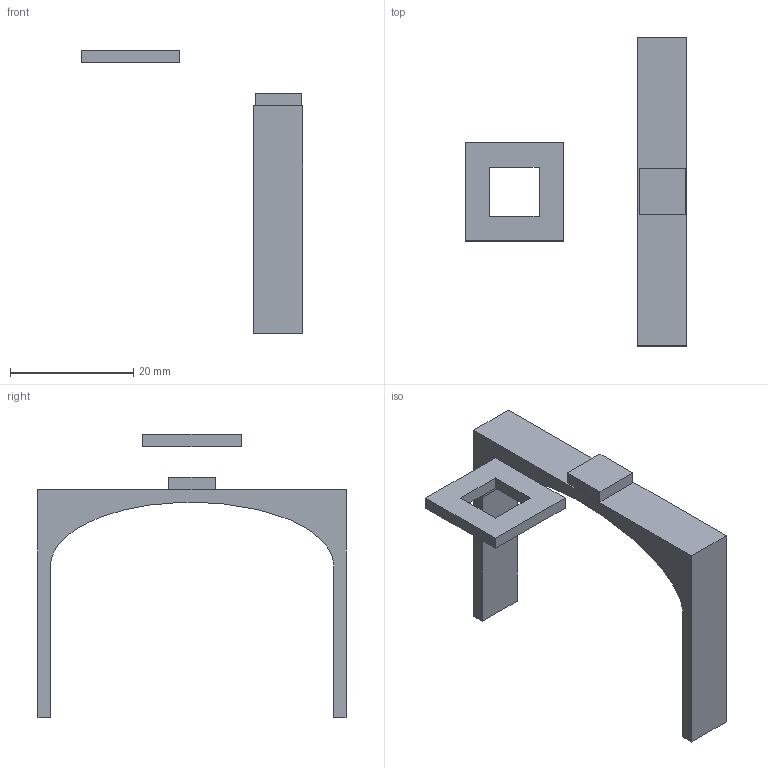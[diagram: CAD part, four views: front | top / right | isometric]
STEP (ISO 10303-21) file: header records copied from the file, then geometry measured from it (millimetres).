
FILE_DESCRIPTION(/* description */ (''),/* implementation_level */ '2;1');
FILE_NAME(/* name */ 'testpressfit',/* time_stamp */ '2025-04-15T11:17:41-04:00',/* author */ (''),/* organization */ (''),/* preprocessor_version */ 'ST-DEVELOPER v19.2',/* originating_system */ 'Rhino 8.18',/* authorisation */ '');
FILE_SCHEMA (('CONFIG_CONTROL_DESIGN'));
Length unit declared in the file: millimetre
Products named in the file (1): Document
Bounding box: 36 x 50 x 46 mm (x, y, z)
Volume: 3258.9 mm3; surface area: 3297.2 mm2
Topology: 3 solids, 3 shells, 26 faces, 62 edges, 42 vertices
Faces by surface type: plane 25, bspline 1
Entity records: 757 total; most frequent: CARTESIAN_POINT 218, ORIENTED_EDGE 120, EDGE_CURVE 60, B_SPLINE_CURVE_WITH_KNOTS 60, VERTEX_POINT 40, DIRECTION 31, EDGE_LOOP 28, AXIS2_PLACEMENT_3D 28
